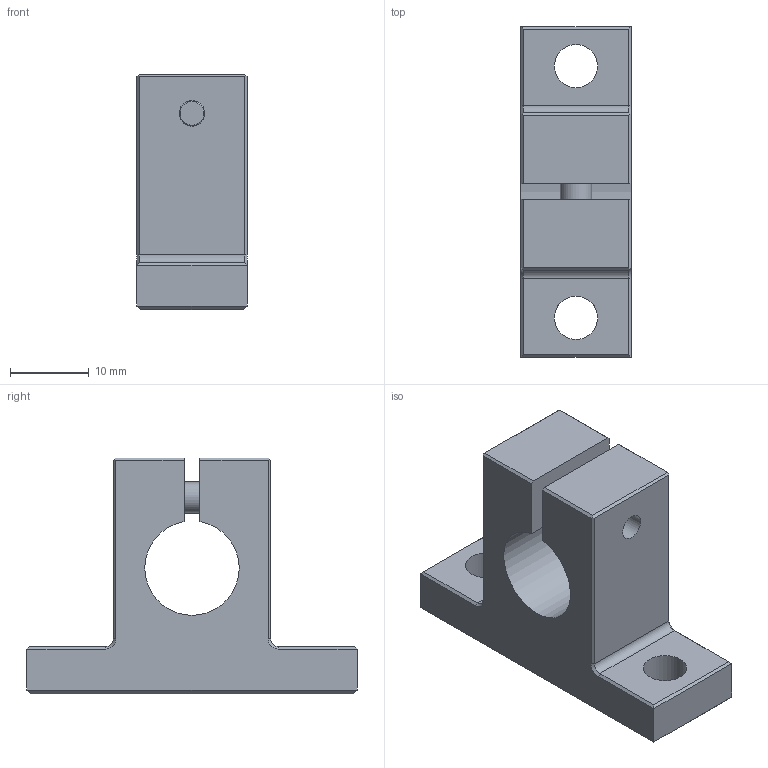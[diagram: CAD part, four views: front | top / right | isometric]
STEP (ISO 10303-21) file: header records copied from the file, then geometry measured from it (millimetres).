
FILE_DESCRIPTION((''),'2;1');
FILE_NAME('D:\製品 (図面)\カタログ用3D\シャフトブロック関連\STEP形式\SHA\SHA12A.stp','2010-06-01T16:36:03',('Tsuchiya'),(''),'Autodesk Inventor 10','Autodesk Inventor 10','');
FILE_SCHEMA(('AUTOMOTIVE_DESIGN { 1 0 10303 214 1 1 1 1 }'));
Length unit declared in the file: millimetre
Products named in the file (1): SHA12A
Bounding box: 14 x 42 x 30 mm (x, y, z)
Volume: 8034.5 mm3; surface area: 4330.8 mm2
Topology: 1 solids, 1 shells, 60 faces, 147 edges, 93 vertices
Faces by surface type: plane 42, cylinder 7, cone 6, bspline 4, torus 1
Full cylindrical faces by diameter (mm): 4 x1, 5.5 x2, 7 x1
Entity records: 1710 total; most frequent: CARTESIAN_POINT 347, DIRECTION 266, ORIENTED_EDGE 264, EDGE_CURVE 132, VECTOR 100, LINE 100, VERTEX_POINT 88, AXIS2_PLACEMENT_3D 83
